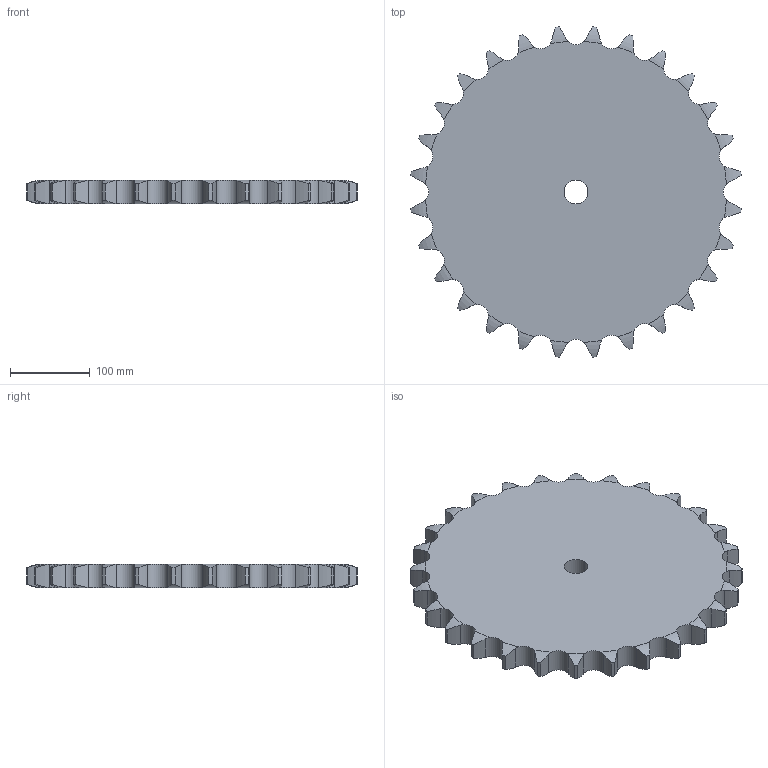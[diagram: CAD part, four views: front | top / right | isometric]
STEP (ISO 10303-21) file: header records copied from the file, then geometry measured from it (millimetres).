
FILE_DESCRIPTION((''),'2;1');
FILE_NAME('500-751-0028_PRT','2021-02-12T',('Brieden'),('Brieden'),'PRO/ENGINEER BY PARAMETRIC TECHNOLOGY CORPORATION, 2010160','PRO/ENGINEER BY PARAMETRIC TECHNOLOGY CORPORATION, 2010160','');
FILE_SCHEMA(('AUTOMOTIVE_DESIGN { 1 0 10303 214 1 1 1 1 }'));
Length unit declared in the file: millimetre
Products named in the file (1): 500-751-0028_PRT
Bounding box: 413.87 x 413.87 x 29.4 mm (x, y, z)
Volume: 3418682.4 mm3; surface area: 289477.7 mm2
Topology: 1 solids, 1 shells, 172 faces, 510 edges, 340 vertices
Faces by surface type: cylinder 114, torus 56, plane 2
Entity records: 8724 total; most frequent: CARTESIAN_POINT 2787, ORIENTED_EDGE 1020, DIRECTION 802, PRESENTATION_STYLE_ASSIGNMENT 511, STYLED_ITEM 511, CURVE_STYLE 510, EDGE_CURVE 510, AXIS2_PLACEMENT_3D 344
